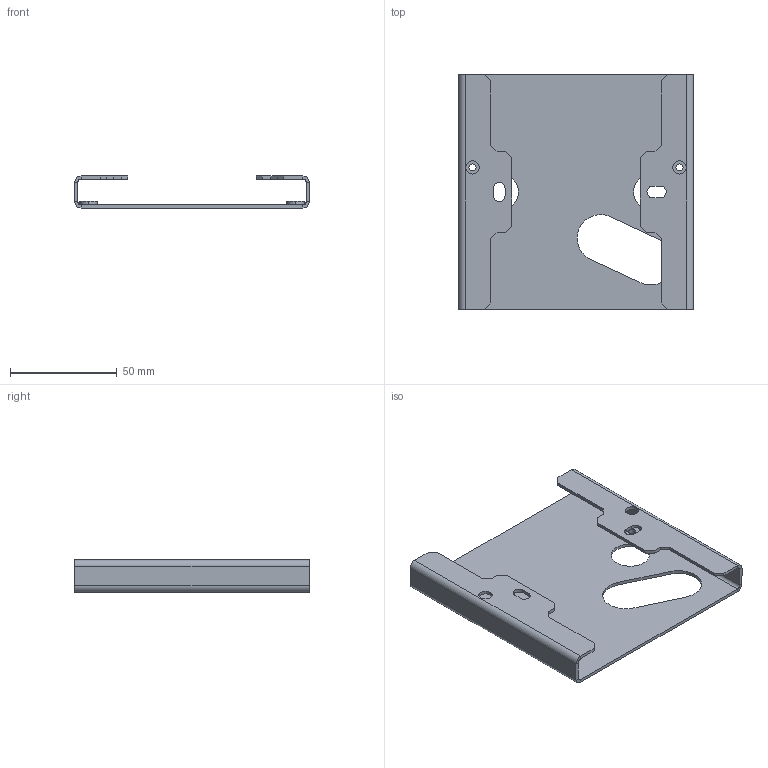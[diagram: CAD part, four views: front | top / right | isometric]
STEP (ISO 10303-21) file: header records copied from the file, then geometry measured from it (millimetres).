
FILE_DESCRIPTION (( 'STEP AP203' ), '1' );
FILE_NAME ('157.STEP', '2020-07-09T12:21:07', ( '' ), ( '' ), 'SwSTEP 2.0', 'SolidWorks 2019', '' );
FILE_SCHEMA (( 'CONFIG_CONTROL_DESIGN' ));
Length unit declared in the file: millimetre
Products named in the file (3): 157; M4 nakrêtka okr¹g³a wciskana_rs; Dystans_W1
Assembly tree (3 placements, depth 2):
  157
    Dystans_W1
    M4 nakrêtka okr¹g³a wciskana_rs  x2
Bounding box: 110 x 110 x 15 mm (x, y, z)
Volume: 25225.7 mm3; surface area: 35207.8 mm2
Topology: 3 solids, 3 shells, 908 faces, 2662 edges, 1764 vertices
Faces by surface type: plane 664, cone 204, cylinder 40
Entity records: 16592 total; most frequent: CARTESIAN_POINT 3497, ORIENTED_EDGE 2876, DIRECTION 2508, EDGE_CURVE 1438, VECTOR 966, LINE 966, VERTEX_POINT 948, AXIS2_PLACEMENT_3D 771
